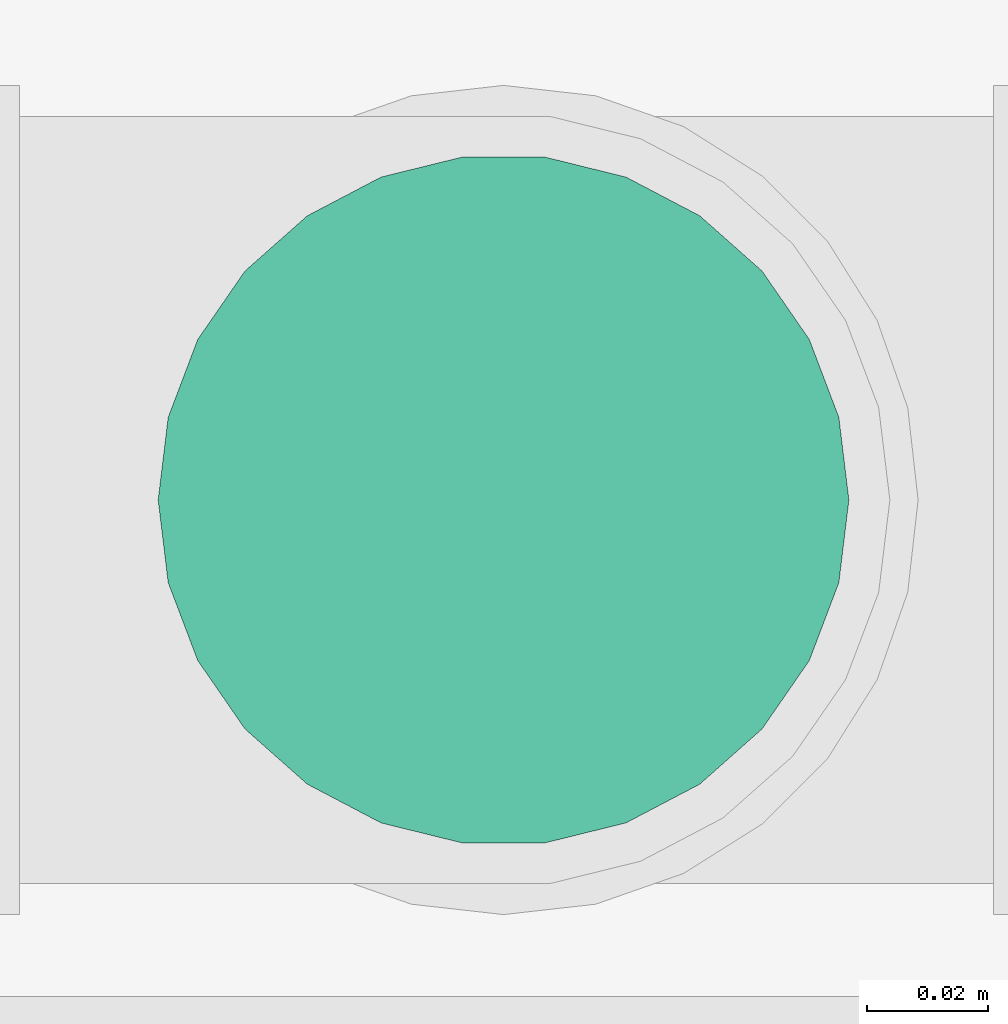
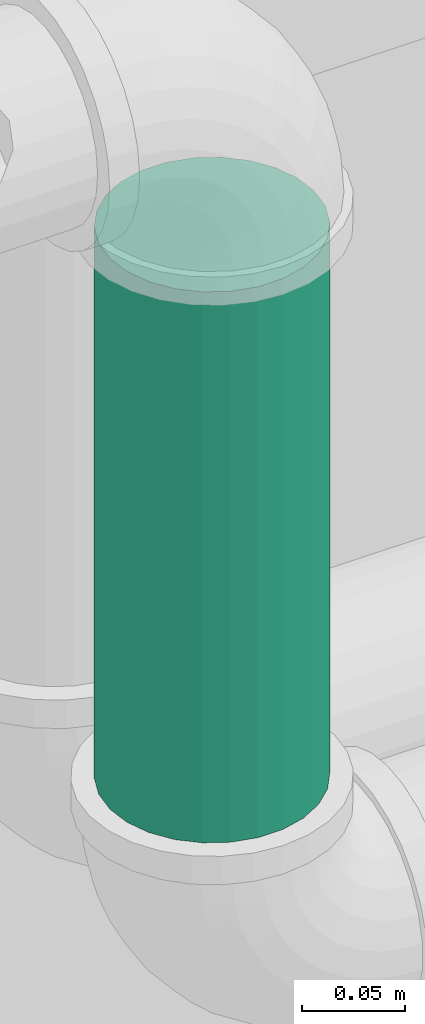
# One storey, part 56 of 108: 1 pipe segment.
"""IFC4 building model written with IfcOpenShell, lengths in feet."""

from ifc_helpers import new_model, entity, si_unit, converted_unit, derived_unit, direction, frame, origin, origin_2d_with_axis, place, context, subcontext, project, spatial, circle, extrude, type_object, element, save


model = new_model("IFC4")

# Units and contexts
model_context = context("Model", 3, precision=0.0001, world=origin(), true_north=direction((6.12303176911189e-17, 1.0)))
body_context = subcontext(model_context, "Body", "Model", "MODEL_VIEW")
ifc_project = project(units=[converted_unit("LENGTHUNIT", "FOOT", entity("IfcRatioMeasure", 0.3048), si_unit("LENGTHUNIT", "METRE"), dimensions=[1, 0, 0, 0, 0, 0, 0]), converted_unit("AREAUNIT", "SQUARE FOOT", entity("IfcRatioMeasure", 0.09290304), si_unit("AREAUNIT", "SQUARE_METRE"), dimensions=[2, 0, 0, 0, 0, 0, 0]), converted_unit("VOLUMEUNIT", "CUBIC FOOT", entity("IfcRatioMeasure", 0.028316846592), si_unit("VOLUMEUNIT", "CUBIC_METRE"), dimensions=[3, 0, 0, 0, 0, 0, 0]), converted_unit("PLANEANGLEUNIT", "DEGREE", entity("IfcRatioMeasure", 0.0174532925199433), si_unit("PLANEANGLEUNIT", "RADIAN"), dimensions=[0, 0, 0, 0, 0, 0, 0]), si_unit("MASSUNIT", "GRAM", prefix="KILO"), derived_unit("MASSDENSITYUNIT", [(si_unit("MASSUNIT", "GRAM", prefix="KILO"), 1), (si_unit("LENGTHUNIT", "METRE"), -3)]), si_unit("TIMEUNIT", "SECOND"), si_unit("FREQUENCYUNIT", "HERTZ"), si_unit("THERMODYNAMICTEMPERATUREUNIT", "DEGREE_CELSIUS"), derived_unit("THERMALTRANSMITTANCEUNIT", [(si_unit("MASSUNIT", "GRAM", prefix="KILO"), 1), (si_unit("THERMODYNAMICTEMPERATUREUNIT", "KELVIN"), -1), (si_unit("TIMEUNIT", "SECOND"), -3)]), derived_unit("VOLUMETRICFLOWRATEUNIT", [(si_unit("LENGTHUNIT", "METRE"), 3), (si_unit("TIMEUNIT", "SECOND"), -1)]), si_unit("ELECTRICCURRENTUNIT", "AMPERE"), si_unit("ELECTRICVOLTAGEUNIT", "VOLT"), si_unit("POWERUNIT", "WATT"), si_unit("FORCEUNIT", "NEWTON"), si_unit("ILLUMINANCEUNIT", "LUX"), si_unit("LUMINOUSFLUXUNIT", "LUMEN"), si_unit("LUMINOUSINTENSITYUNIT", "CANDELA"), derived_unit("USERDEFINED", [(si_unit("MASSUNIT", "GRAM", prefix="KILO"), -1), (si_unit("LENGTHUNIT", "METRE"), -2), (si_unit("TIMEUNIT", "SECOND"), 3), (si_unit("LUMINOUSFLUXUNIT", "LUMEN"), 1)]), derived_unit("LINEARVELOCITYUNIT", [(si_unit("LENGTHUNIT", "METRE"), 1), (si_unit("TIMEUNIT", "SECOND"), -1)]), si_unit("PRESSUREUNIT", "PASCAL"), derived_unit("USERDEFINED", [(si_unit("LENGTHUNIT", "METRE"), -2), (si_unit("MASSUNIT", "GRAM", prefix="KILO"), 1), (si_unit("TIMEUNIT", "SECOND"), -2)])], contexts=[model_context])

# Site, building, storey
site_placement = place(None, origin())
site = spatial("IfcSite", under=ifc_project, at=site_placement, Name="Default", CompositionType="ELEMENT")
building_placement = place(site_placement, origin())
building = spatial("IfcBuilding", under=site, at=building_placement, CompositionType="ELEMENT")
storey_placement = place(building_placement, frame((0.0, 0.0, 168.0)))
storey = spatial("IfcBuildingStorey", under=building, at=storey_placement, Name="Level 15", CompositionType="ELEMENT", Elevation=168.0)

# Pipe segment
pipe_segment_type = type_object("IfcPipeSegmentType", Name="Pipe Types:Hydronic", PredefinedType="NOTDEFINED")
pipe_segment_placement = place(storey_placement, frame((-49.2628806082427, 11.4370127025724, 9.85960937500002)))
element("IfcPipeSegment", 1, at=pipe_segment_placement, inside=storey, type_object=pipe_segment_type, Name="Pipe Types:Hydronic", ObjectType="Pipe Types:Hydronic", PredefinedType="NOTDEFINED", context=body_context, shape_type="SweptSolid", body=[
    extrude(circle(Radius=0.1875, at=origin_2d_with_axis()), frame((0.192733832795, 0.192733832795, 0.0)), (0.0, 0.0, 1.0), 1.06928385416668),
])

save(model, "model.ifc")
